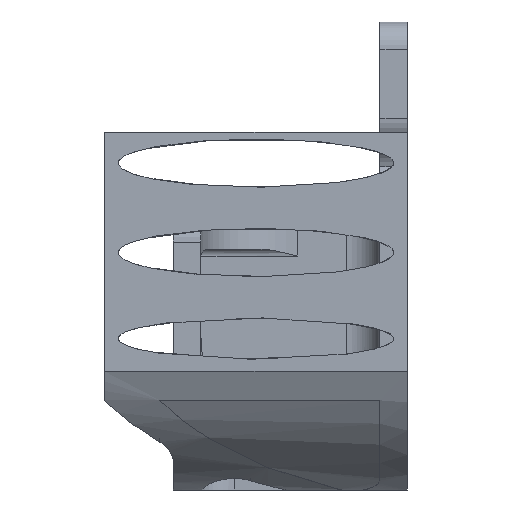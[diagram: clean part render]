
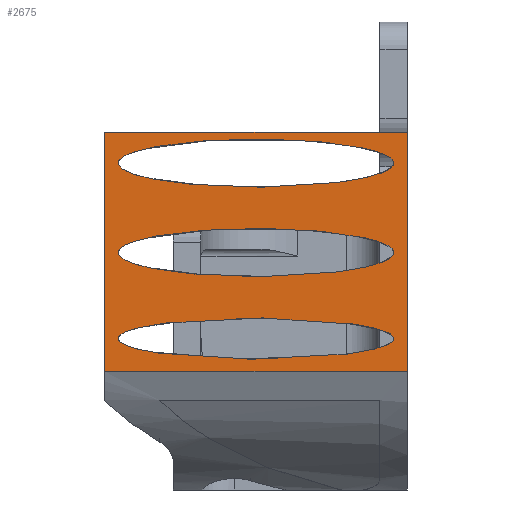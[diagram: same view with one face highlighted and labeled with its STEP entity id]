
A CAD part, left-side view. The second image highlights one B-rep face of the part: STEP entity #2675.
In plain terms, the highlighted planar face has unit normal (-1, 0, 0).
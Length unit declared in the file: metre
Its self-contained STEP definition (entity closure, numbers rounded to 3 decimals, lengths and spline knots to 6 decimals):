
#25=ELLIPSE('',#2812,0.01,0.0015);
#30=ELLIPSE('',#2874,0.01,0.00175);
#31=ELLIPSE('',#2875,0.01,0.00175);
#154=LINE('',#3828,#397);
#159=LINE('',#3864,#402);
#243=LINE('',#4239,#486);
#248=LINE('',#4249,#491);
#397=VECTOR('',#3028,1.);
#402=VECTOR('',#3043,1.);
#486=VECTOR('',#3297,1.);
#491=VECTOR('',#3304,1.);
#1375=ORIENTED_EDGE('',*,*,#1633,.T.);
#1376=ORIENTED_EDGE('',*,*,#1638,.F.);
#1377=ORIENTED_EDGE('',*,*,#1476,.F.);
#1378=ORIENTED_EDGE('',*,*,#1464,.F.);
#1379=ORIENTED_EDGE('',*,*,#1746,.F.);
#1380=ORIENTED_EDGE('',*,*,#1745,.F.);
#1381=ORIENTED_EDGE('',*,*,#1645,.T.);
#1464=EDGE_CURVE('',#1861,#1816,#154,.T.);
#1476=EDGE_CURVE('',#1816,#1873,#159,.F.);
#1633=EDGE_CURVE('',#1861,#2000,#243,.T.);
#1638=EDGE_CURVE('',#1873,#2000,#248,.T.);
#1645=EDGE_CURVE('',#2009,#2009,#25,.F.);
#1745=EDGE_CURVE('',#2062,#2062,#30,.T.);
#1746=EDGE_CURVE('',#2063,#2063,#31,.T.);
#1816=VERTEX_POINT('',#3718);
#1861=VERTEX_POINT('',#3827);
#1873=VERTEX_POINT('',#3865);
#2000=VERTEX_POINT('',#4240);
#2009=VERTEX_POINT('',#4292);
#2062=VERTEX_POINT('',#4520);
#2063=VERTEX_POINT('',#4552);
#2321=EDGE_LOOP('',(#1375,#1376,#1377,#1378));
#2322=EDGE_LOOP('',(#1379));
#2323=EDGE_LOOP('',(#1380));
#2324=EDGE_LOOP('',(#1381));
#2472=FACE_BOUND('',#2321,.T.);
#2473=FACE_BOUND('',#2322,.T.);
#2474=FACE_BOUND('',#2323,.T.);
#2475=FACE_BOUND('',#2324,.T.);
#2540=PLANE('',#2942);
#2675=ADVANCED_FACE('',(#2472,#2473,#2474,#2475),#2540,.T.);
#2812=AXIS2_PLACEMENT_3D('',#4291,#3313,#3314);
#2874=AXIS2_PLACEMENT_3D('',#4519,#3512,#3513);
#2875=AXIS2_PLACEMENT_3D('',#4551,#3514,#3515);
#2942=AXIS2_PLACEMENT_3D('',#4864,#3693,#3694);
#3028=DIRECTION('',(0.,0.,-1.));
#3043=DIRECTION('',(0.,-1.,0.));
#3297=DIRECTION('',(0.,1.,0.));
#3304=DIRECTION('',(0.,0.,1.));
#3313=DIRECTION('',(-1.,0.,0.));
#3314=DIRECTION('',(0.,-1.,0.));
#3512=DIRECTION('',(-1.,0.,0.));
#3513=DIRECTION('',(0.,-1.,0.));
#3514=DIRECTION('',(-1.,0.,0.));
#3515=DIRECTION('',(0.,-1.,0.));
#3693=DIRECTION('',(-1.,0.,0.));
#3694=DIRECTION('',(0.,-1.,0.));
#3718=CARTESIAN_POINT('',(-0.099,0.,0.009615));
#3827=CARTESIAN_POINT('',(-0.099,0.,0.027));
#3828=CARTESIAN_POINT('',(-0.099,0.,0.035));
#3864=CARTESIAN_POINT('',(-0.099,0.025,0.009615));
#3865=CARTESIAN_POINT('',(-0.099,0.022,0.009615));
#4239=CARTESIAN_POINT('',(-0.099,0.025,0.027));
#4240=CARTESIAN_POINT('',(-0.099,0.022,0.027));
#4249=CARTESIAN_POINT('',(-0.099,0.022,0.035));
#4291=CARTESIAN_POINT('',(-0.099,0.011,0.012));
#4292=CARTESIAN_POINT('',(-0.099,0.001,0.012));
#4519=CARTESIAN_POINT('',(-0.099,0.011,0.01825));
#4520=CARTESIAN_POINT('',(-0.099,0.001,0.01825));
#4551=CARTESIAN_POINT('',(-0.099,0.011,0.02475));
#4552=CARTESIAN_POINT('',(-0.099,0.001,0.02475));
#4864=CARTESIAN_POINT('',(-0.099,0.034279,0.023356));
